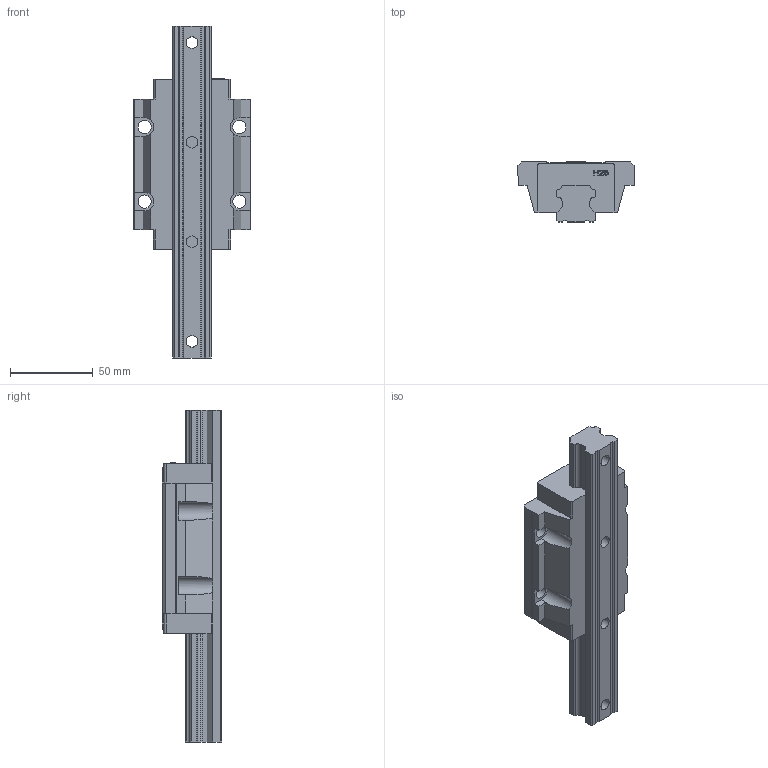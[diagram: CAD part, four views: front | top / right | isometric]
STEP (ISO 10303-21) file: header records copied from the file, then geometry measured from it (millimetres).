
FILE_DESCRIPTION(/* description */ (''),/* implementation_level */ '2;1');
FILE_NAME(/* name */ 'HGW25HC.stp',/* time_stamp */ '2021-05-18T22:55:28+08:00',/* author */ (''),/* organization */ (''),/* preprocessor_version */ 'ST-DEVELOPER v15',/* originating_system */ 'SIEMENS PLM Software NX 8.5',/* authorisation */ '');
FILE_SCHEMA (('CONFIG_CONTROL_DESIGN'));
Length unit declared in the file: millimetre
Products named in the file (1): _model2
Bounding box: 70 x 36 x 200 mm (x, y, z)
Volume: 222933.2 mm3; surface area: 48411.5 mm2
Topology: 2 solids, 2 shells, 183 faces, 521 edges, 349 vertices
Faces by surface type: plane 138, cylinder 28, extrusion 17
Full cylindrical faces by diameter (mm): 7 x4, 8 x4, 11 x4
Entity records: 6131 total; most frequent: CARTESIAN_POINT 1423, ORIENTED_EDGE 1008, DIRECTION 835, EDGE_CURVE 504, VECTOR 373, LINE 356, VERTEX_POINT 344, AXIS2_PLACEMENT_3D 231
